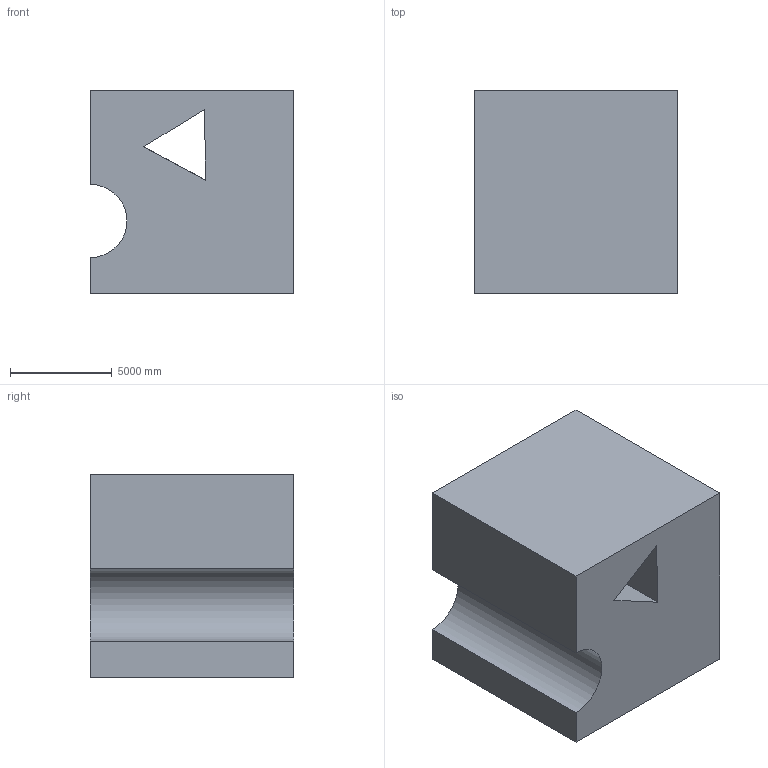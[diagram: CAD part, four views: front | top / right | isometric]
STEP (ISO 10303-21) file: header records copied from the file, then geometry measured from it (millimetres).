
FILE_DESCRIPTION (( 'STEP AP203' ), '1' );
FILE_NAME ('54.STEP', '2022-08-31T11:18:48', ( 'user' ), ( '' ), 'SwSTEP 2.0', 'SolidWorks 2021', '' );
FILE_SCHEMA (( 'CONFIG_CONTROL_DESIGN' ));
Length unit declared in the file: centimetre
Products named in the file (1): 54
Bounding box: 10000 x 10000 x 10000 mm (x, y, z)
Volume: 876800458490.1 mm3; surface area: 737651279.3 mm2
Topology: 1 solids, 1 shells, 16 faces, 40 edges, 26 vertices
Faces by surface type: plane 13, cylinder 3
Entity records: 556 total; most frequent: CARTESIAN_POINT 83, DIRECTION 81, ORIENTED_EDGE 80, EDGE_CURVE 40, LINE 33, VECTOR 33, VERTEX_POINT 26, AXIS2_PLACEMENT_3D 24
